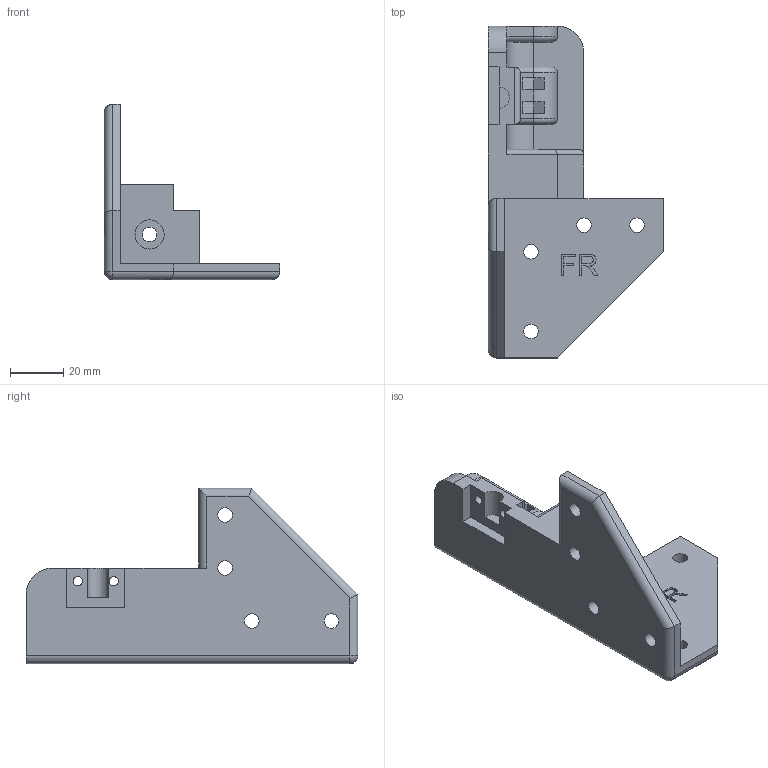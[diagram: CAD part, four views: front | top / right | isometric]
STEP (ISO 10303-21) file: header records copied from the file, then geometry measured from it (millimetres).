
FILE_DESCRIPTION(/* description */ (''),/* implementation_level */ '2;1');
FILE_NAME(/* name */ 'Idler FR x1 v5.step',/* time_stamp */ '2023-03-23T06:38:15-06:00',/* author */ (''),/* organization */ (''),/* preprocessor_version */ 'ST-DEVELOPER v19.2',/* originating_system */ 'Autodesk Translation Framework v11.17.0.187',/* authorisation */ '');
FILE_SCHEMA (('AUTOMOTIVE_DESIGN { 1 0 10303 214 3 1 1 }'));
Length unit declared in the file: millimetre
Products named in the file (2): Idler FR x1; FR Idler 1
Assembly tree (1 placements, depth 2):
  Idler FR x1
    FR Idler 1
Bounding box: 66 x 125 x 66 mm (x, y, z)
Volume: 83092.1 mm3; surface area: 27565.9 mm2
Topology: 1 solids, 1 shells, 222 faces, 574 edges, 374 vertices
Faces by surface type: plane 104, bspline 61, cylinder 53, torus 3, sphere 1
Full cylindrical faces by diameter (mm): 1.385 x1, 1.459 x1, 2.064 x2, 2.691 x1, 3.5 x2, 3.604 x1, 3.97 x1, 5.262 x1, 5.5 x13, 11 x1
Entity records: 9014 total; most frequent: CARTESIAN_POINT 3834, ORIENTED_EDGE 1148, DIRECTION 880, EDGE_CURVE 574, VERTEX_POINT 374, LINE 352, VECTOR 352, EDGE_LOOP 272
